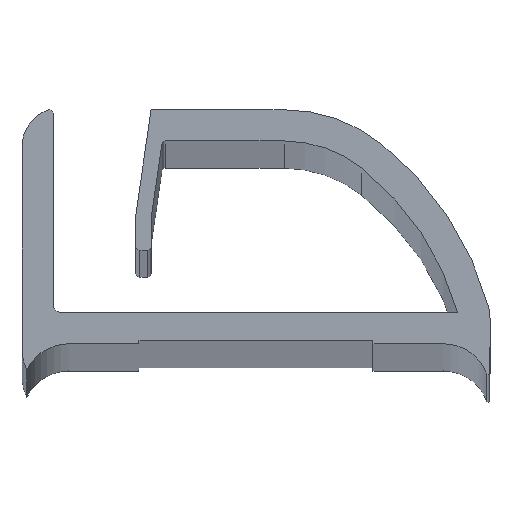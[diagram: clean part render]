
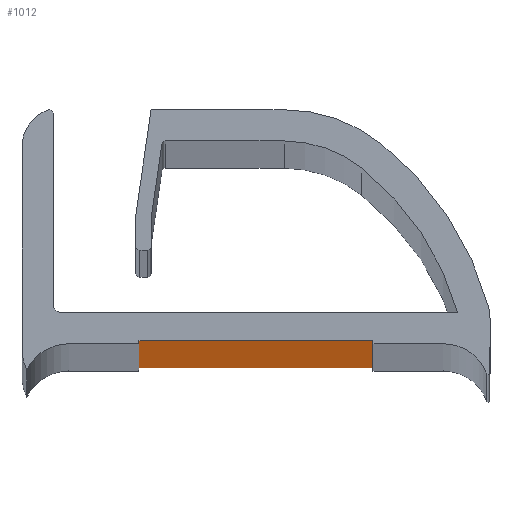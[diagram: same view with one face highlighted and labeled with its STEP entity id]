
A CAD part, top view. The second image highlights one B-rep face of the part: STEP entity #1012.
In plain terms, the highlighted planar face has unit normal (0, -1, 0).
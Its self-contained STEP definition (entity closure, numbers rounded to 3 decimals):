
#23 = CARTESIAN_POINT ( 'NONE',  ( -7.5, 0., 500. ) ) ;
#28 = VECTOR ( 'NONE', #590, 1000. ) ;
#57 = CARTESIAN_POINT ( 'NONE',  ( 7.5, 0., -500. ) ) ;
#80 = DIRECTION ( 'NONE',  ( 0., 0., -1. ) ) ;
#94 = CARTESIAN_POINT ( 'NONE',  ( -7.5, 0., -500. ) ) ;
#105 = CARTESIAN_POINT ( 'NONE',  ( -7.5, 0., -500. ) ) ;
#108 = AXIS2_PLACEMENT_3D ( 'NONE', #1135, #520, #80 ) ;
#130 = EDGE_LOOP ( 'NONE', ( #356, #618, #1088, #400 ) ) ;
#191 = EDGE_CURVE ( 'NONE', #918, #531, #348, .T. ) ;
#233 = VERTEX_POINT ( 'NONE', #953 ) ;
#326 = LINE ( 'NONE', #57, #28 ) ;
#348 = LINE ( 'NONE', #105, #690 ) ;
#356 = ORIENTED_EDGE ( 'NONE', *, *, #709, .F. ) ;
#400 = ORIENTED_EDGE ( 'NONE', *, *, #449, .T. ) ;
#449 = EDGE_CURVE ( 'NONE', #531, #233, #326, .T. ) ;
#450 = DIRECTION ( 'NONE',  ( 1., 0., 0. ) ) ;
#520 = DIRECTION ( 'NONE',  ( 0., -1., 0. ) ) ;
#531 = VERTEX_POINT ( 'NONE', #568 ) ;
#568 = CARTESIAN_POINT ( 'NONE',  ( 7.5, 0., -500. ) ) ;
#577 = VERTEX_POINT ( 'NONE', #776 ) ;
#590 = DIRECTION ( 'NONE',  ( 0., 0., 1. ) ) ;
#618 = ORIENTED_EDGE ( 'NONE', *, *, #659, .F. ) ;
#621 = DIRECTION ( 'NONE',  ( 0., 0., 1. ) ) ;
#659 = EDGE_CURVE ( 'NONE', #918, #577, #877, .T. ) ;
#690 = VECTOR ( 'NONE', #450, 1000. ) ;
#709 = EDGE_CURVE ( 'NONE', #577, #233, #724, .T. ) ;
#724 = LINE ( 'NONE', #23, #838 ) ;
#770 = FACE_OUTER_BOUND ( 'NONE', #130, .T. ) ;
#776 = CARTESIAN_POINT ( 'NONE',  ( -7.5, 0., 500. ) ) ;
#780 = PLANE ( 'NONE',  #108 ) ;
#802 = DIRECTION ( 'NONE',  ( 1., 0., 0. ) ) ;
#838 = VECTOR ( 'NONE', #802, 1000. ) ;
#877 = LINE ( 'NONE', #94, #891 ) ;
#891 = VECTOR ( 'NONE', #621, 1000. ) ;
#918 = VERTEX_POINT ( 'NONE', #1009 ) ;
#953 = CARTESIAN_POINT ( 'NONE',  ( 7.5, 0., 500. ) ) ;
#1009 = CARTESIAN_POINT ( 'NONE',  ( -7.5, 0., -500. ) ) ;
#1012 = ADVANCED_FACE ( 'NONE', ( #770 ), #780, .T. ) ;
#1088 = ORIENTED_EDGE ( 'NONE', *, *, #191, .T. ) ;
#1135 = CARTESIAN_POINT ( 'NONE',  ( -7.5, 0., -500. ) ) ;
